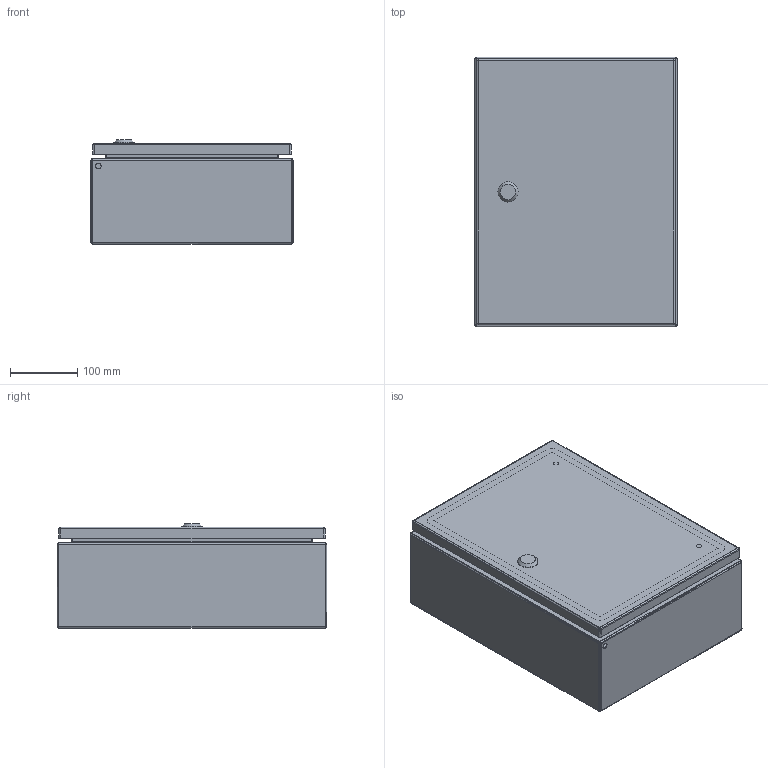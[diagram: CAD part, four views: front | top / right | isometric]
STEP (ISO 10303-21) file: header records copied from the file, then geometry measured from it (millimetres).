
FILE_DESCRIPTION (( 'STEP AP203' ), '1' );
FILE_NAME ('EC030415EE.STEP', '2023-08-31T11:43:52', ( '' ), ( '' ), 'SwSTEP 2.0', 'SolidWorks 2022', '' );
FILE_SCHEMA (( 'CONFIG_CONTROL_DESIGN' ));
Length unit declared in the file: millimetre
Products named in the file (6): AR_EC_EE_montaggio_porta_singola_0300x0400; AR_ECOR_X_Piastra_04; EC030415EE; AR_EC_EE_involucro_0300x0400x0150; AR_EC_EE_chiusura_std_STD; AR_EC_EE_porta_singola_0300x0400
Assembly tree (5 placements, depth 3):
  EC030415EE
    AR_EC_EE_involucro_0300x0400x0150
    AR_ECOR_X_Piastra_04
    AR_EC_EE_montaggio_porta_singola_0300x0400
      AR_EC_EE_porta_singola_0300x0400
      AR_EC_EE_chiusura_std_STD
Bounding box: 300 x 400 x 155 mm (x, y, z)
Volume: 819177.3 mm3; surface area: 1154453.3 mm2
Topology: 4 solids, 4 shells, 252 faces, 572 edges, 331 vertices
Faces by surface type: cylinder 122, plane 95, sphere 20, cone 6, torus 5, bspline 4
Full cylindrical faces by diameter (mm): 4.5 x8, 5.5 x2, 6 x3, 7 x4, 8 x7, 8.2 x5, 9.5 x4, 10 x8, 14 x4, 30 x1
Entity records: 7562 total; most frequent: CARTESIAN_POINT 1525, DIRECTION 1191, ORIENTED_EDGE 974, EDGE_CURVE 487, AXIS2_PLACEMENT_3D 476, EDGE_LOOP 380, VERTEX_POINT 323, FACE_OUTER_BOUND 299
